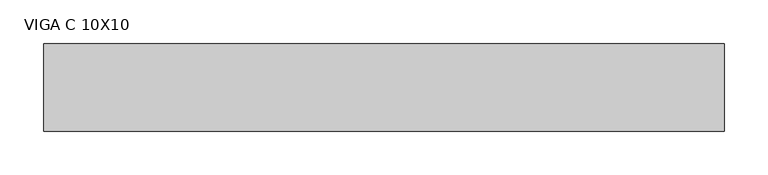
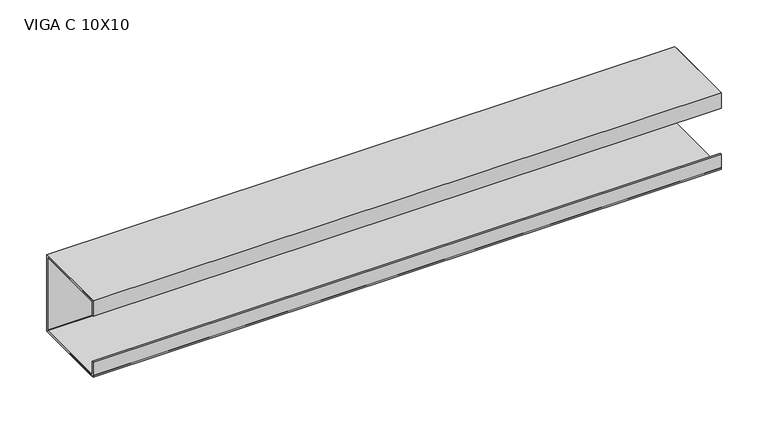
"""IFC4 building model written with IfcOpenShell, lengths in millimetres: beam geometry, VIGA PERFIL C AÇO : VIGA C 10X10."""

import ifcopenshell
import ifcopenshell.guid

model = None  # the IFC model being written
_history = None  # IfcOwnerHistory: only IFC2X3 demands one
_inside = {}  # id of a spatial element -> (the spatial element, [elements in it])
_under = {}  # id of a project, library or spatial element -> (it, [spatial elements below it])
_declared = {}  # id of a project -> (the project, [libraries it declares])
_typed = {}  # id of a type object -> (the type object, [elements of that type])
_made_of = {}  # id of a material, layer set ... -> (it, [elements and type objects made of it])


def new_model(schema):
    """Start an empty IFC model of exactly this schema.

    Asked for "IFC4X3", IfcOpenShell would pick the latest addendum, in which some entities
    have other attributes; the version numbers below select the first issue.
    IFC2X3 requires an IfcOwnerHistory on every rooted entity: one is made here for all.
    """
    global model, _history
    if schema == "IFC4X3":
        model = ifcopenshell.file(schema_version=(4, 3, 0, 0))
    else:
        model = ifcopenshell.file(schema=schema)
    _inside.clear()
    _under.clear()
    _declared.clear()
    _typed.clear()
    _made_of.clear()
    _history = None
    if model.schema == "IFC2X3":
        org = make("IfcOrganization", Name="unknown")
        user = make(
            "IfcPersonAndOrganization",
            ThePerson=make("IfcPerson", FamilyName="unknown"),
            TheOrganization=org,
        )
        app = make(
            "IfcApplication",
            ApplicationDeveloper=org,
            Version="unknown",
            ApplicationFullName="unknown",
            ApplicationIdentifier="unknown",
        )
        _history = make(
            "IfcOwnerHistory",
            OwningUser=user,
            OwningApplication=app,
            ChangeAction="ADDED",
            CreationDate=0,
        )
    return model


def make(cls, **values):
    """One entity of the class cls with the attributes given. An attribute that is None is left unset."""
    return model.create_entity(
        cls, **{name: value for name, value in values.items() if value is not None}
    )


def rooted(cls, **values):
    """An entity with a GlobalId (a new one), such as an element, a storey or a relation."""
    return make(cls, GlobalId=ifcopenshell.guid.new(), OwnerHistory=_history, **values)


def si_unit(unit_type, name, prefix=None):
    """IfcSIUnit, for example si_unit("LENGTHUNIT", "METRE", prefix="MILLI")."""
    return make("IfcSIUnit", UnitType=unit_type, Prefix=prefix, Name=name)


def assignment(units):
    """IfcUnitAssignment: the units of a project."""
    return None if units is None else make("IfcUnitAssignment", Units=units)


def point(xyz):
    """IfcCartesianPoint."""
    return None if xyz is None else make("IfcCartesianPoint", Coordinates=xyz)


def direction(xyz):
    """IfcDirection."""
    return None if xyz is None else make("IfcDirection", DirectionRatios=xyz)


def frame(location, z_axis=None, x_axis=None):
    """IfcAxis2Placement3D, a coordinate frame: its origin and axes. An axis left out is left unset."""
    return make(
        "IfcAxis2Placement3D",
        Location=point(location),
        Axis=direction(z_axis),
        RefDirection=direction(x_axis),
    )


def frame_2d(location, x_axis=None):
    """IfcAxis2Placement2D, a coordinate frame in the plane: its origin and x axis."""
    return make(
        "IfcAxis2Placement2D", Location=point(location), RefDirection=direction(x_axis)
    )


def origin():
    """The frame at (0, 0, 0) with its axes left unset."""
    return frame((0.0, 0.0, 0.0))


def place(relative_to, where):
    """IfcLocalPlacement: puts the frame where relative to a parent placement (None: the world)."""
    return make(
        "IfcLocalPlacement", PlacementRelTo=relative_to, RelativePlacement=where
    )


def context(
    kind, dimensions, precision=None, world=None, true_north=None, identifier=None
):
    """IfcGeometricRepresentationContext, for example the 3D "Model" context."""
    return make(
        "IfcGeometricRepresentationContext",
        ContextIdentifier=identifier,
        ContextType=kind,
        CoordinateSpaceDimension=dimensions,
        Precision=precision,
        WorldCoordinateSystem=world,
        TrueNorth=true_north,
    )


def project(units=None, contexts=None):
    """IfcProject with its units and contexts."""
    return rooted(
        "IfcProject",
        Name="project",
        RepresentationContexts=contexts,
        UnitsInContext=assignment(units),
    )


def spatial(cls, under=None, at=None, **own):
    """A site, building, storey or space (cls), placed at a placement, below another one or the project."""
    s = rooted(cls, ObjectPlacement=at, **own)
    if under is not None:
        _under.setdefault(under.id(), (under, []))[1].append(s)
    return s


def polyline(points):
    """IfcPolyline through the points."""
    return make("IfcPolyline", Points=[point(p) for p in points])


def circle_curve(where, radius):
    """IfcCircle in the frame where."""
    return make("IfcCircle", Position=where, Radius=radius)


def trimmed(basis, trim1, trim2, sense, master):
    """IfcTrimmedCurve: the piece of a basis curve between two trims."""
    return make(
        "IfcTrimmedCurve",
        BasisCurve=basis,
        Trim1=trim1,
        Trim2=trim2,
        SenseAgreement=sense,
        MasterRepresentation=master,
    )


def segment(curve, same_sense, transition):
    """IfcCompositeCurveSegment."""
    return make(
        "IfcCompositeCurveSegment",
        Transition=transition,
        SameSense=same_sense,
        ParentCurve=curve,
    )


def composite_curve(segments, self_intersect=None):
    """IfcCompositeCurve: segments joined end to end."""
    return make("IfcCompositeCurve", Segments=segments, SelfIntersect=self_intersect)


def outline(outer, holes=None, kind="AREA"):
    """IfcArbitraryClosedProfileDef: a profile drawn as a closed curve; with holes, ...WithVoids."""
    if holes is None:
        return make("IfcArbitraryClosedProfileDef", ProfileType=kind, OuterCurve=outer)
    return make(
        "IfcArbitraryProfileDefWithVoids",
        ProfileType=kind,
        OuterCurve=outer,
        InnerCurves=holes,
    )


def extrude(swept, where, along, depth):
    """IfcExtrudedAreaSolid: the profile swept, set in the frame where, extruded along a direction by depth."""
    return make(
        "IfcExtrudedAreaSolid",
        SweptArea=swept,
        Position=where,
        ExtrudedDirection=direction(along),
        Depth=depth,
    )


def shape(context_of_items, identifier, shape_type, items):
    """IfcShapeRepresentation: the items that make up one representation, for example the "Body"."""
    return make(
        "IfcShapeRepresentation",
        ContextOfItems=context_of_items,
        RepresentationIdentifier=identifier,
        RepresentationType=shape_type,
        Items=items,
    )


def source(mapping_origin, context_of_items, identifier, shape_type, items):
    """IfcRepresentationMap: a shape defined once, which mapped items show again and again."""
    return make(
        "IfcRepresentationMap",
        MappingOrigin=mapping_origin,
        MappedRepresentation=shape(context_of_items, identifier, shape_type, items),
    )


def transform(
    local_origin,
    x_axis=None,
    y_axis=None,
    z_axis=None,
    scale=None,
    scale2=None,
    scale3=None,
    uniform=True,
):
    """IfcCartesianTransformationOperator3D, or its non-uniform kind. x_axis, y_axis, z_axis: its Axis1, 2, 3."""
    if uniform:
        return make(
            "IfcCartesianTransformationOperator3D",
            Axis1=direction(x_axis),
            Axis2=direction(y_axis),
            LocalOrigin=point(local_origin),
            Scale=scale,
            Axis3=direction(z_axis),
        )
    return make(
        "IfcCartesianTransformationOperator3DnonUniform",
        Axis1=direction(x_axis),
        Axis2=direction(y_axis),
        LocalOrigin=point(local_origin),
        Scale=scale,
        Axis3=direction(z_axis),
        Scale2=scale2,
        Scale3=scale3,
    )


def mapped(mapping_source, mapping_target):
    """IfcMappedItem: shows the shape of a source again, moved by a transform."""
    return make(
        "IfcMappedItem", MappingSource=mapping_source, MappingTarget=mapping_target
    )


def made_of(thing, what):
    """Note that an element or type object is made of a material, layer set ...; save() writes the relation."""
    if what is not None:
        _made_of.setdefault(what.id(), (what, []))[1].append(thing)
    return thing


def element(
    cls,
    number,
    at=None,
    inside=None,
    cuts=None,
    type_object=None,
    material=None,
    context=None,
    identifier="Body",
    shape_type=None,
    held_by="IfcProductDefinitionShape",
    body=None,
    shapes=None,
    **own,
):
    """One element of the class cls, such as IfcWall. Its Tag is "e" and its number.

    at: its placement. inside: the storey or other place that contains it. cuts: it is an
    opening in that element (IfcRelVoidsElement). A single representation is given by context,
    identifier, shape_type and body (its items); several are given by shapes. held_by: the class
    of the entity that holds the representations. save() writes the other relations.
    """
    e = rooted(cls, Tag="e%d" % number, ObjectPlacement=at, **own)
    if body is not None:
        shapes = [shape(context, identifier, shape_type, body)]
    if shapes is not None:
        e.Representation = make(held_by, Representations=shapes)
    if inside is not None:
        _inside.setdefault(inside.id(), (inside, []))[1].append(e)
    if cuts is not None:
        rooted(
            "IfcRelVoidsElement", RelatingBuildingElement=cuts, RelatedOpeningElement=e
        )
    if type_object is not None:
        _typed.setdefault(type_object.id(), (type_object, []))[1].append(e)
    return made_of(e, material)


def aggregate(whole, parts):
    """IfcRelAggregates: a whole, such as a stair, and the parts it consists of."""
    return rooted("IfcRelAggregates", RelatingObject=whole, RelatedObjects=parts)


def save(model, path):
    """Write the relations noted so far, then the file.

    IfcRelAggregates (storeys below a building ...), IfcRelContainedInSpatialStructure (elements
    in a storey), IfcRelDefinesByType, IfcRelAssociatesMaterial and IfcRelDeclares: one each for
    every whole, place, type object, material and project.
    """
    for whole, parts in _under.values():
        aggregate(whole, parts)
    for where, things in _inside.values():
        rooted(
            "IfcRelContainedInSpatialStructure",
            RelatedElements=things,
            RelatingStructure=where,
        )
    for kind, things in _typed.values():
        rooted("IfcRelDefinesByType", RelatedObjects=things, RelatingType=kind)
    for what, things in _made_of.values():
        rooted("IfcRelAssociatesMaterial", RelatedObjects=things, RelatingMaterial=what)
    for by, libraries in _declared.values():
        rooted("IfcRelDeclares", RelatingContext=by, RelatedDefinitions=libraries)
    model.write(path)


def viga_c_10x10_c9c204d0(model_context):
    return source(origin(), model_context, "Body", "SweptSolid", [
        extrude(outline(polyline([(9.2, -50.0), (-90.8, -50.0), (-90.8, -30.0), (-88.9, -30.0), (-88.9, -48.1), (7.3, -48.1), (7.3, 48.1), (-88.9, 48.1), (-88.9, 30.0), (-90.8, 30.0), (-90.8, 50.0), (9.2, 50.0), (9.2, -50.0)])), frame((-355.5, 0.0, 0.0), z_axis=(1.0, 0.0, 0.0), x_axis=(0.0, 1.0, 0.0)), (0.0, 0.0, 1.0), 778.0),
        extrude(outline(composite_curve([segment(trimmed(circle_curve(frame_2d((5.4, -46.2)), 3.8), [point((9.2, -46.2))], [point((5.4, -50.0))], False, "CARTESIAN"), True, "CONTINUOUS"), segment(polyline([(5.4, -50.0), (-87.0, -50.0)]), True, "CONTINUOUS"), segment(trimmed(circle_curve(frame_2d((-87.0, -46.2)), 3.8), [point((-87.0, -50.0))], [point((-90.8, -46.2))], False, "CARTESIAN"), True, "CONTINUOUS"), segment(polyline([(-90.8, -46.2), (-90.8, -30.0), (-88.9, -30.0), (-88.9, -46.2)]), True, "CONTINUOUS"), segment(trimmed(circle_curve(frame_2d((-87.0, -46.2)), 1.9), [point((-88.9, -46.2))], [point((-87.0, -48.1))], True, "CARTESIAN"), True, "CONTINUOUS"), segment(polyline([(-87.0, -48.1), (5.4, -48.1)]), True, "CONTINUOUS"), segment(trimmed(circle_curve(frame_2d((5.4, -46.2)), 1.9), [point((5.4, -48.1))], [point((7.3, -46.2))], True, "CARTESIAN"), True, "CONTINUOUS"), segment(polyline([(7.3, -46.2), (7.3, 46.2)]), True, "CONTINUOUS"), segment(trimmed(circle_curve(frame_2d((5.4, 46.2)), 1.9), [point((7.3, 46.2))], [point((5.4, 48.1))], True, "CARTESIAN"), True, "CONTINUOUS"), segment(polyline([(5.4, 48.1), (-87.0, 48.1)]), True, "CONTINUOUS"), segment(trimmed(circle_curve(frame_2d((-87.0, 46.2)), 1.9), [point((-87.0, 48.1))], [point((-88.9, 46.2))], True, "CARTESIAN"), True, "CONTINUOUS"), segment(polyline([(-88.9, 46.2), (-88.9, 30.0), (-90.8, 30.0), (-90.8, 46.2)]), True, "CONTINUOUS"), segment(trimmed(circle_curve(frame_2d((-87.0, 46.2)), 3.8), [point((-90.8, 46.2))], [point((-87.0, 50.0))], False, "CARTESIAN"), True, "CONTINUOUS"), segment(polyline([(-87.0, 50.0), (5.4, 50.0)]), True, "CONTINUOUS"), segment(trimmed(circle_curve(frame_2d((5.4, 46.2)), 3.8), [point((5.4, 50.0))], [point((9.2, 46.2))], False, "CARTESIAN"), True, "CONTINUOUS"), segment(polyline([(9.2, 46.2), (9.2, -46.2)]), True, "CONTINUOUS")], self_intersect=False)), frame((-355.5, 0.0, 0.0), z_axis=(1.0, 0.0, 0.0), x_axis=(0.0, 1.0, 0.0)), (0.0, 0.0, 1.0), 778.0),
    ])


if __name__ == "__main__":
    model = new_model("IFC4")
    model_context = context("Model", 3, world=origin())
    ifc_project = project(units=[si_unit("LENGTHUNIT", "METRE", prefix="MILLI")], contexts=[model_context])
    site = spatial("IfcSite", under=ifc_project)
    building = spatial("IfcBuilding", under=site)
    placement = place(None, origin())
    viga_c_10x10_shape = viga_c_10x10_c9c204d0(model_context)
    element("IfcBeam", 1, ObjectType="VIGA PERFIL C AÇO : VIGA C 10X10", at=placement, inside=building, context=model_context, shape_type="MappedRepresentation", body=[
        mapped(viga_c_10x10_shape, transform((0.0, 0.0, 0.0), x_axis=(1.0, 0.0, 0.0), y_axis=(0.0, 1.0, 0.0), z_axis=(0.0, 0.0, 1.0))),
    ])
    save(model, "model.ifc")
